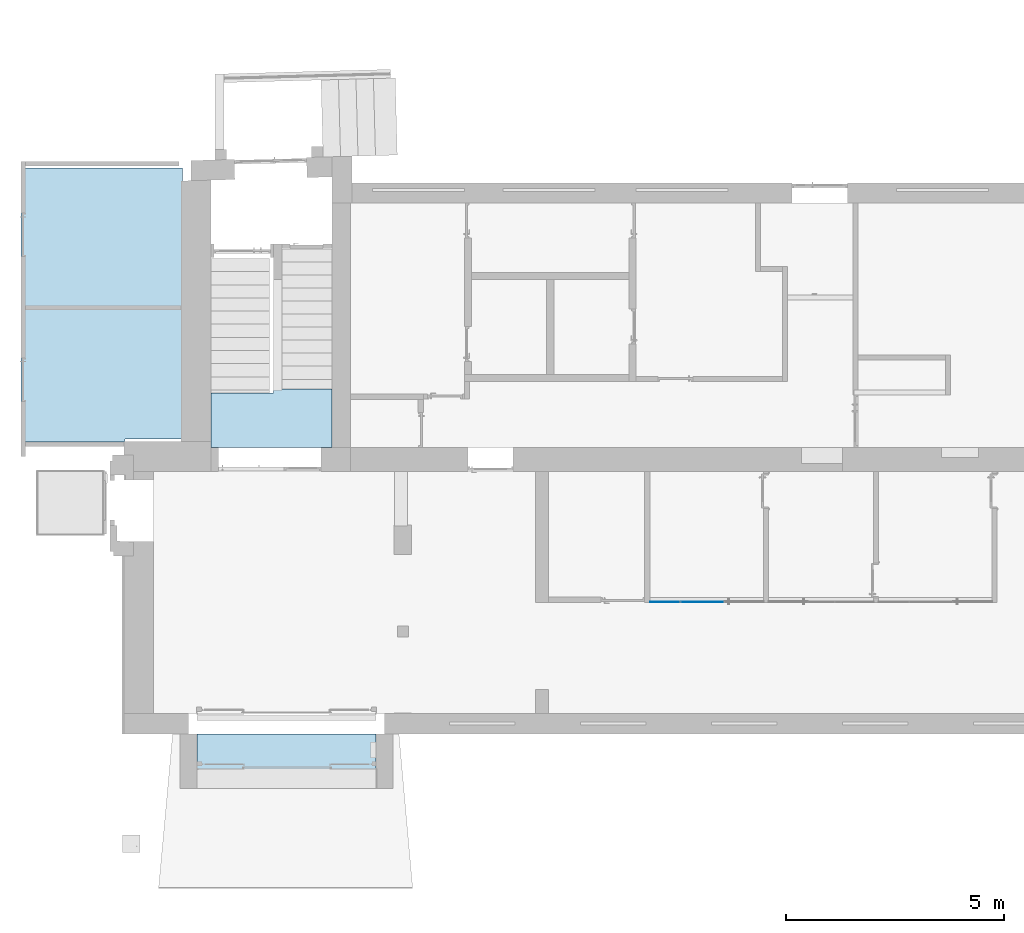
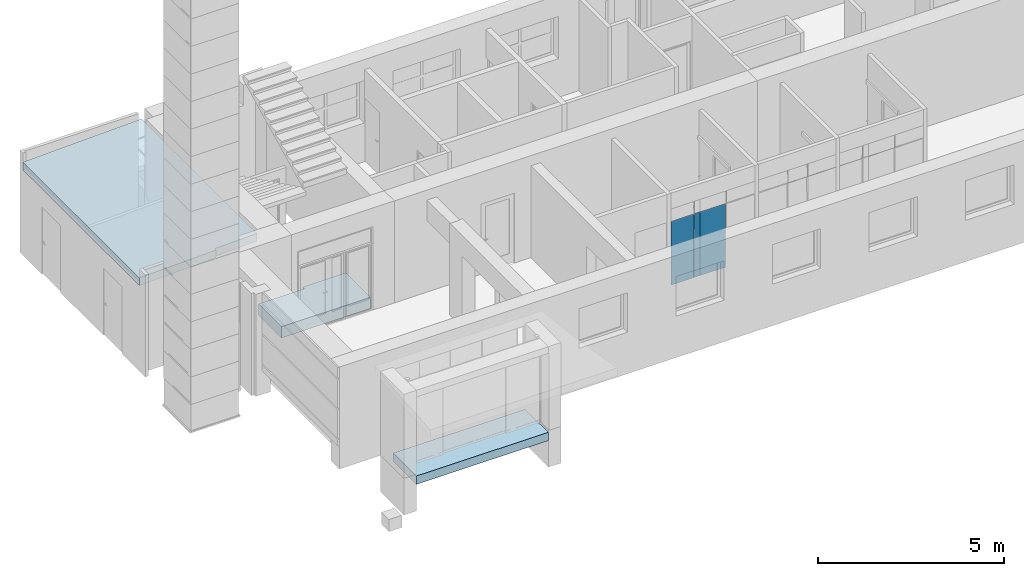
# One storey, part 8 of 49: 3 plates, 3 slabs, 2 elements without a shape of their own.
"""IFC2X3 building model written with IfcOpenShell, lengths in millimetres."""

from ifc_helpers import new_model, entity, si_unit, converted_unit, derived_unit, direction, frame, origin, origin_2d_with_axis, place, context, subcontext, project, spatial, polyline, rectangle, outline, extrude, source, transform, mapped, material, layer, layer_set, layer_usage, type_object, type_shapes, element, aggregate, save


model = new_model("IFC2X3")

# Units and contexts
model_context = context("Model", 3, precision=0.01, world=origin(), true_north=direction((6.12303176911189e-17, 1.0)))
body_context = subcontext(model_context, "Body", "Model", "MODEL_VIEW")
ifc_project = project(units=[si_unit("LENGTHUNIT", "METRE", prefix="MILLI"), si_unit("AREAUNIT", "SQUARE_METRE"), si_unit("VOLUMEUNIT", "CUBIC_METRE"), converted_unit("PLANEANGLEUNIT", "DEGREE", entity("IfcRatioMeasure", 0.0174532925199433), si_unit("PLANEANGLEUNIT", "RADIAN"), dimensions=[0, 0, 0, 0, 0, 0, 0]), si_unit("MASSUNIT", "GRAM", prefix="KILO"), derived_unit("MASSDENSITYUNIT", [(si_unit("MASSUNIT", "GRAM", prefix="KILO"), 1), (si_unit("LENGTHUNIT", "METRE"), -3)]), si_unit("TIMEUNIT", "SECOND"), si_unit("FREQUENCYUNIT", "HERTZ"), si_unit("THERMODYNAMICTEMPERATUREUNIT", "DEGREE_CELSIUS"), derived_unit("THERMALTRANSMITTANCEUNIT", [(si_unit("MASSUNIT", "GRAM", prefix="KILO"), 1), (si_unit("THERMODYNAMICTEMPERATUREUNIT", "KELVIN"), -1), (si_unit("TIMEUNIT", "SECOND"), -3)]), derived_unit("VOLUMETRICFLOWRATEUNIT", [(si_unit("LENGTHUNIT", "METRE"), 3), (si_unit("TIMEUNIT", "SECOND"), -1)]), si_unit("ELECTRICCURRENTUNIT", "AMPERE"), si_unit("ELECTRICVOLTAGEUNIT", "VOLT"), si_unit("POWERUNIT", "WATT"), si_unit("FORCEUNIT", "NEWTON", prefix="KILO"), si_unit("ILLUMINANCEUNIT", "LUX"), si_unit("LUMINOUSFLUXUNIT", "LUMEN"), si_unit("LUMINOUSINTENSITYUNIT", "CANDELA"), derived_unit("USERDEFINED", [(si_unit("MASSUNIT", "GRAM", prefix="KILO"), -1), (si_unit("LENGTHUNIT", "METRE"), -2), (si_unit("TIMEUNIT", "SECOND"), 3), (si_unit("LUMINOUSFLUXUNIT", "LUMEN"), 1)]), derived_unit("LINEARVELOCITYUNIT", [(si_unit("LENGTHUNIT", "METRE"), 1), (si_unit("TIMEUNIT", "SECOND"), -1)]), si_unit("PRESSUREUNIT", "PASCAL"), derived_unit("USERDEFINED", [(si_unit("LENGTHUNIT", "METRE"), -2), (si_unit("MASSUNIT", "GRAM", prefix="KILO"), 1), (si_unit("TIMEUNIT", "SECOND"), -2)])], contexts=[model_context])

# Site, building, storey
site_placement = place(None, frame((-151.875543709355, 2715.0, 0.0)))
site = spatial("IfcSite", under=ifc_project, at=site_placement, Name="Surface", CompositionType="ELEMENT")
building_placement = place(site_placement, origin())
building = spatial("IfcBuilding", under=site, at=building_placement, CompositionType="ELEMENT")
storey_placement = place(building_placement, origin())
storey = spatial("IfcBuildingStorey", under=building, at=storey_placement, Name="1 korrus", CompositionType="ELEMENT", Elevation=3.0969999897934e-10)

# Curtain wall, plates
curtain_wall_type = type_object("IfcCurtainWallType", Name="Curtain Wall:Klaassein KLS-01", PredefinedType="NOTDEFINED")
curtain_wall_placement = place(storey_placement, origin())
curtain_wall = element("IfcCurtainWall", 1, at=curtain_wall_placement, inside=storey, type_object=curtain_wall_type, Name="Curtain Wall:Klaassein KLS-01", ObjectType="Curtain Wall:Klaassein KLS-01")
ifc_material_1 = material(Name="<Unnamed>")
ifc_layer_1 = layer(ifc_material_1, 20.0)
ifc_layer_set_1 = layer_set([ifc_layer_1], Name="Curtain Wall:Klaassein KLS-01")
ifc_layer_usage_1 = layer_usage(ifc_layer_set_1, "AXIS3", "POSITIVE", 0.0)
plate_type_1 = type_object("IfcPlateType", Name="Glazed", PredefinedType="CURTAIN_PANEL", material=ifc_layer_set_1)
shared_shape_1 = source(origin(), body_context, "Body", "SweptSolid", [
    extrude(rectangle(XDim=20.0, YDim=691.999999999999, at=origin_2d_with_axis()), frame((0.0, 0.0, 0.0), z_axis=(0.0, 0.0, 1.0), x_axis=(0.0, 1.0, 0.0)), (0.0, 0.0, 1.0), 2090.0),
])
type_shapes(plate_type_1, [shared_shape_1])
plate_1_placement = place(curtain_wall_placement, frame((12168.2710850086, 3017.50000000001, 0.0)))
plate_1 = element("IfcPlate", 2, at=plate_1_placement, type_object=plate_type_1, material=ifc_layer_usage_1, Name="System Panel:Glazed", ObjectType="Glazed", context=body_context, shape_type="MappedRepresentation", body=[
    mapped(shared_shape_1, transform((0.0, 0.0, 0.0), scale=1.0)),
])
ifc_layer_usage_2 = layer_usage(ifc_layer_set_1, "AXIS3", "POSITIVE", 0.0)
plate_type_2 = type_object("IfcPlateType", Name="Glazed", PredefinedType="CURTAIN_PANEL", material=ifc_layer_set_1)
shared_shape_2 = source(origin(), body_context, "Body", "SweptSolid", [
    extrude(rectangle(XDim=20.0, YDim=188.0000003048, at=origin_2d_with_axis()), frame((0.0, 0.0, 0.0), z_axis=(0.0, 0.0, 1.0), x_axis=(0.0, 1.0, 0.0)), (0.0, 0.0, 1.0), 2090.0),
])
type_shapes(plate_type_2, [shared_shape_2])
plate_2_placement = place(curtain_wall_placement, frame((12628.271085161, 3017.50000000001, 0.0)))
plate_2 = element("IfcPlate", 3, at=plate_2_placement, type_object=plate_type_2, material=ifc_layer_usage_2, Name="System Panel:Glazed", ObjectType="Glazed", context=body_context, shape_type="MappedRepresentation", body=[
    mapped(shared_shape_2, transform((0.0, 0.0, 0.0), scale=1.0)),
])
ifc_layer_usage_3 = layer_usage(ifc_layer_set_1, "AXIS3", "POSITIVE", 0.0)
plate_type_3 = type_object("IfcPlateType", Name="Glazed", PredefinedType="CURTAIN_PANEL", material=ifc_layer_set_1)
shared_shape_3 = source(origin(), body_context, "Body", "SweptSolid", [
    extrude(rectangle(XDim=20.0, YDim=791.999999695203, at=origin_2d_with_axis()), frame((0.0, 0.0, 0.0), z_axis=(0.0, 0.0, 1.0), x_axis=(0.0, 1.0, 0.0)), (0.0, 0.0, 1.0), 2090.0),
])
type_shapes(plate_type_3, [shared_shape_3])
plate_3_placement = place(curtain_wall_placement, frame((13118.271085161, 3017.50000000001, 0.0)))
plate_3 = element("IfcPlate", 4, at=plate_3_placement, type_object=plate_type_3, material=ifc_layer_usage_3, Name="System Panel:Glazed", ObjectType="Glazed", context=body_context, shape_type="MappedRepresentation", body=[
    mapped(shared_shape_3, transform((0.0, 0.0, 0.0), scale=1.0)),
])
aggregate(curtain_wall, [plate_1, plate_2, plate_3])

# Slabs
ifc_material_2 = material(Name="GENEERILINE - KONSTRUKTRIOON")
ifc_layer_2 = layer(ifc_material_2, 273.963527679)
ifc_layer_set_2 = layer_set([ifc_layer_2], Name="Floor:Põrand tuulekojas")
ifc_layer_usage_4 = layer_usage(ifc_layer_set_2, "AXIS3", "POSITIVE", 0.0)
slab_1_placement = place(storey_placement, origin())
element("IfcSlab", 5, at=slab_1_placement, inside=storey, material=ifc_layer_usage_4, Name="Floor:Põrand tuulekojas", ObjectType="Floor:Põrand tuulekojas", PredefinedType="FLOOR", context=body_context, shape_type="SweptSolid", body=[
    extrude(rectangle(XDim=1248.3215332, YDim=4100.0, at=origin_2d_with_axis()), frame((3502.1033287, -624.25613403, -55.0), z_axis=(0.0, 0.0, -1.0), x_axis=(0.0, 1.0, 0.0)), (0.0, 0.0, 1.0), 273.963527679),
])
ifc_material_3 = material(Name="Viimistlus_kelder")
ifc_layer_3 = layer(ifc_material_3, 20.0)
ifc_material_4 = material(Name="Betoon")
ifc_layer_4 = layer(ifc_material_4, 100.0)
ifc_material_5 = material(Name="__Soojustus EPS")
ifc_layer_5 = layer(ifc_material_5, 150.0)
ifc_material_6 = material(Name="Aluspinnas")
ifc_layer_6 = layer(ifc_material_6, 100.0)
ifc_layer_set_3 = layer_set([ifc_layer_3, ifc_layer_4, ifc_layer_5, ifc_layer_6], Name="Floor:P-1_Esimese korruse põrand")
ifc_layer_usage_5 = layer_usage(ifc_layer_set_3, "AXIS3", "POSITIVE", 0.0)
slab_2_placement = place(storey_placement, origin())
element("IfcSlab", 6, at=slab_2_placement, inside=storey, material=ifc_layer_usage_5, Name="Floor:P-1_Esimese korruse põrand", ObjectType="Floor:P-1_Esimese korruse põrand", PredefinedType="FLOOR", context=body_context, shape_type="SweptSolid", body=[
    extrude(outline(polyline([(-856.475728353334, -1400.996224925), (382.745310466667, -1400.996224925), (382.745310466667, 32.8002190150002), (473.730417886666, 29.6882644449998), (473.730417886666, 1369.688264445), (-856.475728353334, 1369.815701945), (-856.475728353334, -1400.996224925)])), frame((3170.996224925, 7416.47572835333, 0.0), z_axis=(0.0, 0.0, -1.0), x_axis=(0.0, 1.0, 0.0)), (0.0, 0.0, 1.0), 370.0),
])

# Roof, slab
roof_placement = place(storey_placement, frame((-2575.12445445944, 6676.05917363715, 2800.0)))
roof = element("IfcRoof", 7, at=roof_placement, inside=storey, Name="Basic Roof:KL-2", ObjectType="Basic Roof:KL-2", ShapeType="NOTDEFINED")
ifc_material_7 = material(Name="PVC")
ifc_layer_7 = layer(ifc_material_7, 3.0)
ifc_material_8 = material(Name="Rocwool")
ifc_layer_8 = layer(ifc_material_8, 120.0)
ifc_material_9 = material(Name="Profiilplekk")
ifc_layer_9 = layer(ifc_material_9, 130.0)
ifc_layer_set_4 = layer_set([ifc_layer_7, ifc_layer_8, ifc_layer_9], Name="Basic Roof:KL-2")
slab_3_placement = place(roof_placement, origin())
slab_3 = element("IfcSlab", 8, at=slab_3_placement, material=ifc_layer_set_4, Name="Basic Roof:KL-2", ObjectType="Basic Roof:KL-2", PredefinedType="ROOF", context=body_context, shape_type="SweptSolid", body=[
    extrude(outline(polyline([(1846.68717916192, 3136.27129848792), (-1846.68717916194, 3136.27129848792), (-1846.68717916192, -3136.27129848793), (535.764145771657, -3136.27129848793), (535.764145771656, -3067.33162846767), (1846.68717916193, -3067.33162846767), (1846.68717916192, 3136.27129848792)])), frame((1845.56222722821, 3136.27129848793, 64.4484531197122), z_axis=(-0.0348994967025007, 0.0, 0.999390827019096), x_axis=(0.999390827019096, 0.0, 0.0348994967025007)), (0.0348994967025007, 0.0, 0.999390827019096), 253.154214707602),
])
aggregate(roof, [slab_3])

save(model, "model.ifc")
